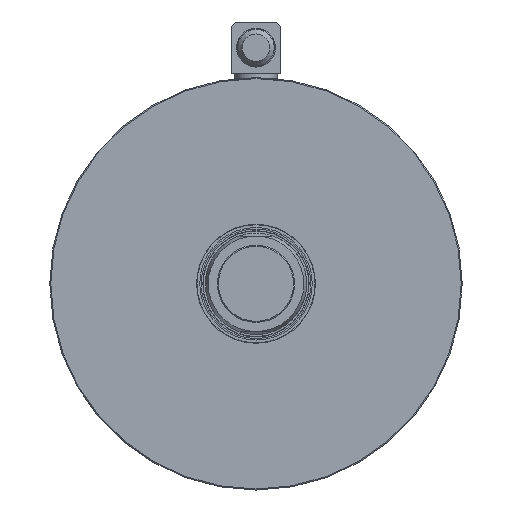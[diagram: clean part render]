
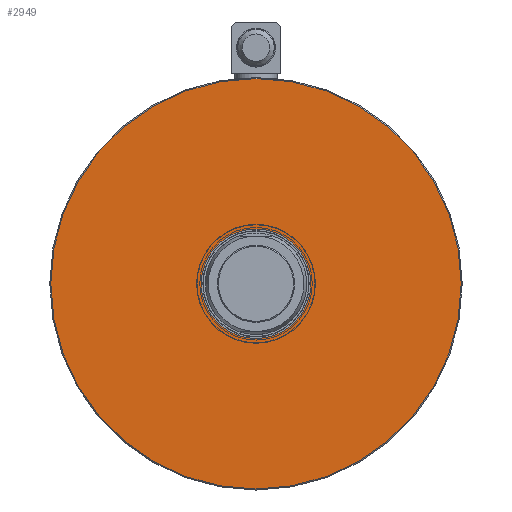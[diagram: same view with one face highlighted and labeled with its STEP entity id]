
A CAD part, left-side view. The second image highlights one B-rep face of the part: STEP entity #2949.
In plain terms, the highlighted planar face has unit normal (-1, 0, 0).
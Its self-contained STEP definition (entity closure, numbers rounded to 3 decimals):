
#138=FACE_BOUND('',#537,.T.);
#196=PLANE('',#3252);
#331=FACE_OUTER_BOUND('',#536,.T.);
#536=EDGE_LOOP('',(#2207));
#537=EDGE_LOOP('',(#2208));
#1079=CIRCLE('',#3253,101.2);
#1080=CIRCLE('',#3254,27.);
#1290=VERTEX_POINT('',#4873);
#1291=VERTEX_POINT('',#4875);
#1612=EDGE_CURVE('',#1290,#1290,#1079,.T.);
#1613=EDGE_CURVE('',#1291,#1291,#1080,.T.);
#2207=ORIENTED_EDGE('',*,*,#1612,.F.);
#2208=ORIENTED_EDGE('',*,*,#1613,.T.);
#2949=ADVANCED_FACE('',(#331,#138),#196,.F.);
#3252=AXIS2_PLACEMENT_3D('',#4872,#3891,#3892);
#3253=AXIS2_PLACEMENT_3D('',#4874,#3893,#3894);
#3254=AXIS2_PLACEMENT_3D('',#4876,#3895,#3896);
#3891=DIRECTION('center_axis',(1.,0.,0.));
#3892=DIRECTION('ref_axis',(0.,0.,1.));
#3893=DIRECTION('center_axis',(1.,0.,0.));
#3894=DIRECTION('ref_axis',(0.,1.,0.));
#3895=DIRECTION('center_axis',(1.,0.,0.));
#3896=DIRECTION('ref_axis',(0.,0.,-1.));
#4872=CARTESIAN_POINT('Origin',(-503.1,0.,0.));
#4873=CARTESIAN_POINT('',(-503.1,-101.2,0.));
#4874=CARTESIAN_POINT('Origin',(-503.1,0.,0.));
#4875=CARTESIAN_POINT('',(-503.1,0.,27.));
#4876=CARTESIAN_POINT('Origin',(-503.1,0.,0.));
